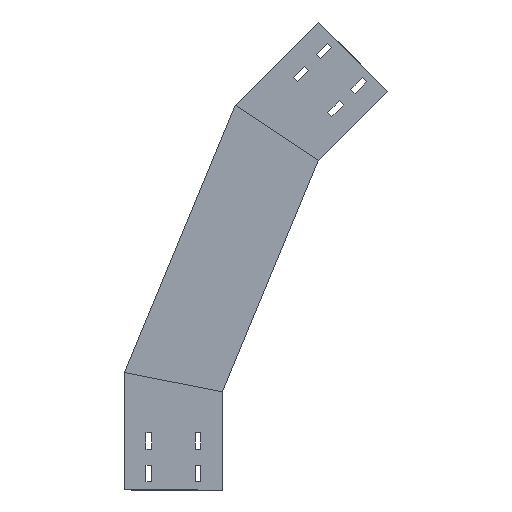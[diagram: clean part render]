
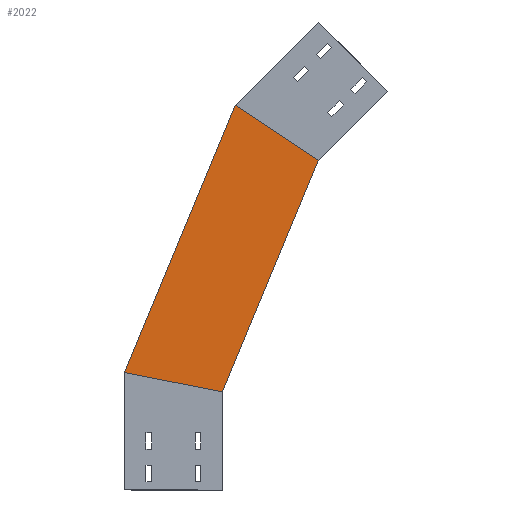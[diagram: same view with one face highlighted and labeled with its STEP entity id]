
A CAD part, left-side view. The second image highlights one B-rep face of the part: STEP entity #2022.
In plain terms, the highlighted planar face has unit normal (-1, 0, 0) as drawn and (1, 0, 0) by its records, which use the part's own axes.
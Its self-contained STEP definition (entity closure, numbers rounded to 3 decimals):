
#18 = DIRECTION ( 'NONE',  ( 0., -0.383, 0.924 ) ) ;
#50 = DIRECTION ( 'NONE',  ( 0., -0.981, -0.195 ) ) ;
#136 = VERTEX_POINT ( 'NONE', #1690 ) ;
#212 = LINE ( 'NONE', #537, #586 ) ;
#298 = ORIENTED_EDGE ( 'NONE', *, *, #1701, .F. ) ;
#365 = VECTOR ( 'NONE', #18, 1000. ) ;
#367 = ORIENTED_EDGE ( 'NONE', *, *, #952, .F. ) ;
#473 = VERTEX_POINT ( 'NONE', #1302 ) ;
#486 = DIRECTION ( 'NONE',  ( 1., 0., 0. ) ) ;
#537 = CARTESIAN_POINT ( 'NONE',  ( 0., -28.701, 144.291 ) ) ;
#586 = VECTOR ( 'NONE', #50, 1000. ) ;
#600 = FACE_OUTER_BOUND ( 'NONE', #1820, .T. ) ;
#664 = VECTOR ( 'NONE', #1923, 1000. ) ;
#716 = ORIENTED_EDGE ( 'NONE', *, *, #1283, .T. ) ;
#784 = ORIENTED_EDGE ( 'NONE', *, *, #1345, .T. ) ;
#800 = PLANE ( 'NONE',  #880 ) ;
#880 = AXIS2_PLACEMENT_3D ( 'NONE', #1404, #486, #1114 ) ;
#952 = EDGE_CURVE ( 'NONE', #970, #136, #212, .T. ) ;
#970 = VERTEX_POINT ( 'NONE', #1751 ) ;
#987 = CARTESIAN_POINT ( 'NONE',  ( 0., 12.598, 119.585 ) ) ;
#1079 = VERTEX_POINT ( 'NONE', #1967 ) ;
#1088 = VECTOR ( 'NONE', #1576, 1000. ) ;
#1114 = DIRECTION ( 'NONE',  ( 0., 0., -1. ) ) ;
#1160 = LINE ( 'NONE', #1888, #1088 ) ;
#1283 = EDGE_CURVE ( 'NONE', #473, #1079, #1612, .T. ) ;
#1302 = CARTESIAN_POINT ( 'NONE',  ( 0., -19.404, 588.814 ) ) ;
#1345 = EDGE_CURVE ( 'NONE', #970, #473, #1160, .T. ) ;
#1404 = CARTESIAN_POINT ( 'NONE',  ( 0., 12.598, 119.585 ) ) ;
#1430 = CARTESIAN_POINT ( 'NONE',  ( 0., -214.035, 458.766 ) ) ;
#1576 = DIRECTION ( 'NONE',  ( 0., -0.383, 0.924 ) ) ;
#1612 = LINE ( 'NONE', #1430, #664 ) ;
#1690 = CARTESIAN_POINT ( 'NONE',  ( 0., 0., 150. ) ) ;
#1701 = EDGE_CURVE ( 'NONE', #136, #1079, #1921, .T. ) ;
#1751 = CARTESIAN_POINT ( 'NONE',  ( 0., 150., 179.837 ) ) ;
#1820 = EDGE_LOOP ( 'NONE', ( #784, #716, #298, #367 ) ) ;
#1888 = CARTESIAN_POINT ( 'NONE',  ( 0., 151.18, 176.988 ) ) ;
#1921 = LINE ( 'NONE', #987, #365 ) ;
#1923 = DIRECTION ( 'NONE',  ( 0., -0.831, -0.556 ) ) ;
#1967 = CARTESIAN_POINT ( 'NONE',  ( 0., -146.568, 503.846 ) ) ;
#2022 = ADVANCED_FACE ( 'NONE', ( #600 ), #800, .T. ) ;
